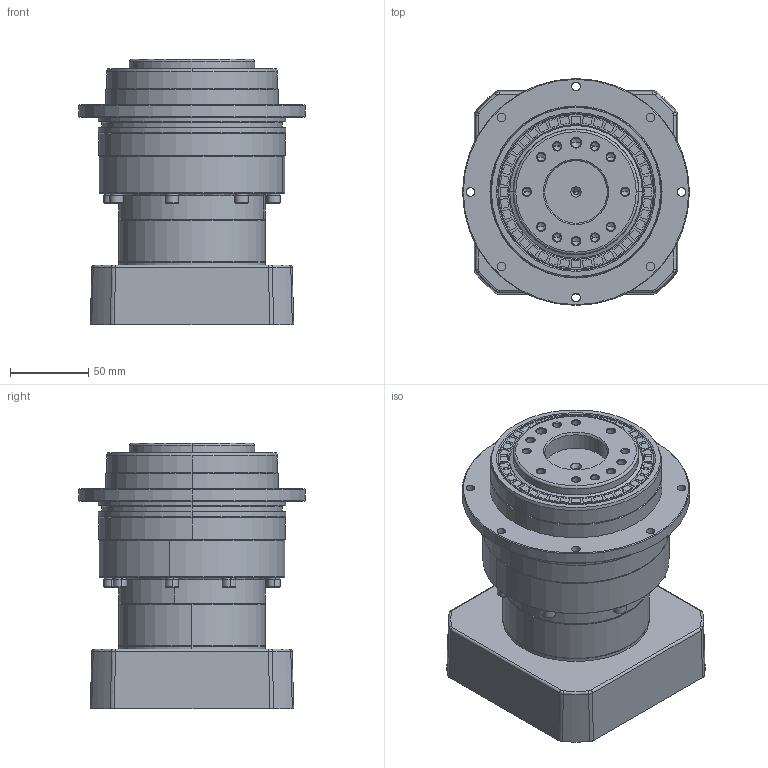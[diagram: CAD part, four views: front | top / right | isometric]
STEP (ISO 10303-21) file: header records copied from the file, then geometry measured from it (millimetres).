
FILE_DESCRIPTION (( 'STEP AP214' ), '1' );
FILE_NAME ('VRT110-L2-P2 22-110-145-M8.STEP', '2021-04-26T09:21:39', ( 'User' ), ( 'china' ), 'SwSTEP 2.0', 'SolidWorks 2016', '' );
FILE_SCHEMA (( 'AUTOMOTIVE_DESIGN' ));
Length unit declared in the file: millimetre
Products named in the file (11): VRT110-L2-P2 22-110-145-M8; 输入轴锁紧环26x52x14; 输入轴VRT090-5M1-22; M6-14; M5-12樓粟菜; 输入法兰VRT090M1-110-145-M8; 输入端壳体VRT090M1; 一级内齿圈壳体VRT090D; 蚐猾80x100x7; 怀堤俴陎殤VRT110D; 输出内齿圈壳体VRT110D
Assembly tree (23 placements, depth 2):
  VRT110-L2-P2 22-110-145-M8
    输出内齿圈壳体VRT110D
    怀堤俴陎殤VRT110D
    蚐猾80x100x7
    一级内齿圈壳体VRT090D
    输入端壳体VRT090M1
    输入法兰VRT090M1-110-145-M8
    M5-12樓粟菜  x9
    M6-14  x6
    输入轴VRT090-5M1-22
    输入轴锁紧环26x52x14
Bounding box: 145 x 145 x 169.5 mm (x, y, z)
Volume: 1511699.9 mm3; surface area: 269953.1 mm2
Topology: 14 solids, 32 shells, 1545 faces, 3634 edges, 2202 vertices
Faces by surface type: cylinder 429, plane 428, bspline 345, cone 286, torus 57
Entity records: 63279 total; most frequent: CARTESIAN_POINT 23868, ORIENTED_EDGE 5533, DIRECTION 5055, EDGE_CURVE 2770, AXIS2_PLACEMENT_3D 2043, VERTEX_POINT 1695, EDGE_LOOP 1382, UNCERTAINTY_MEASURE_WITH_UNIT 1237
